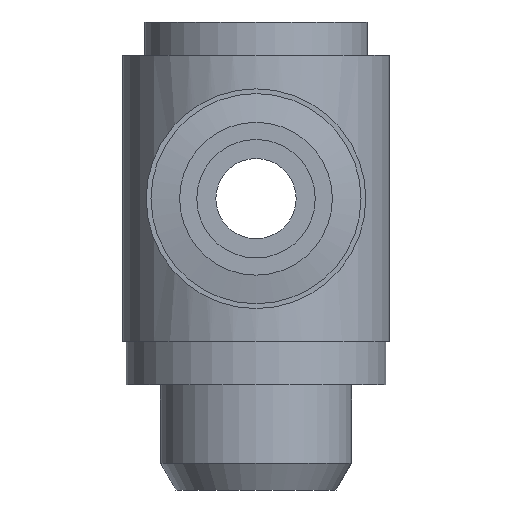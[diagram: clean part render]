
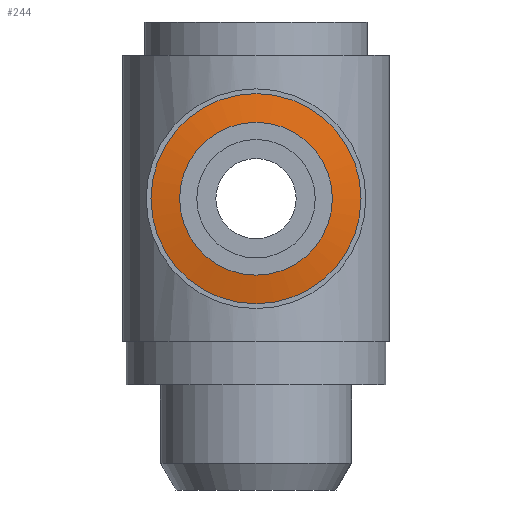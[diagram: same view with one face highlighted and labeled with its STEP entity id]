
A CAD part, front view. The second image highlights one B-rep face of the part: STEP entity #244.
In plain terms, the highlighted conical face has half-angle 80 degrees and reference radius 4.75 mm.
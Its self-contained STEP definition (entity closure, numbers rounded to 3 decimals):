
#210=CARTESIAN_POINT('',(5.5,-24.036,0.0));
#211=VERTEX_POINT('',#210);
#212=CARTESIAN_POINT('',(0.,-24.036,0.0));
#213=DIRECTION('',(0.0,-1.0,0.0));
#214=DIRECTION('',(1.0,0.0,0.0));
#215=AXIS2_PLACEMENT_3D('',#212,#213,#214);
#216=CIRCLE('',#215,5.5);
#217=EDGE_CURVE('',#211,#211,#216,.T.);
#225=CARTESIAN_POINT('',(0.,-24.168,0.0));
#226=DIRECTION('',(0.,1.0,0.0));
#227=DIRECTION('',(1.0,0.0,0.0));
#228=AXIS2_PLACEMENT_3D('',#225,#226,#227);
#229=CONICAL_SURFACE('',#228,4.75,80.);
#230=CARTESIAN_POINT('',(4.,-24.3,0.0));
#231=VERTEX_POINT('',#230);
#232=CARTESIAN_POINT('',(0.,-24.3,0.0));
#233=DIRECTION('',(0.0,-1.0,0.0));
#234=DIRECTION('',(1.0,0.0,0.0));
#235=AXIS2_PLACEMENT_3D('',#232,#233,#234);
#236=CIRCLE('',#235,4.0);
#237=EDGE_CURVE('',#231,#231,#236,.T.);
#238=ORIENTED_EDGE('',*,*,#237,.F.);
#239=EDGE_LOOP('',(#238));
#240=FACE_OUTER_BOUND('',#239,.T.);
#241=ORIENTED_EDGE('',*,*,#217,.T.);
#242=EDGE_LOOP('',(#241));
#243=FACE_BOUND('',#242,.T.);
#244=ADVANCED_FACE('',(#240,#243),#229,.T.);
